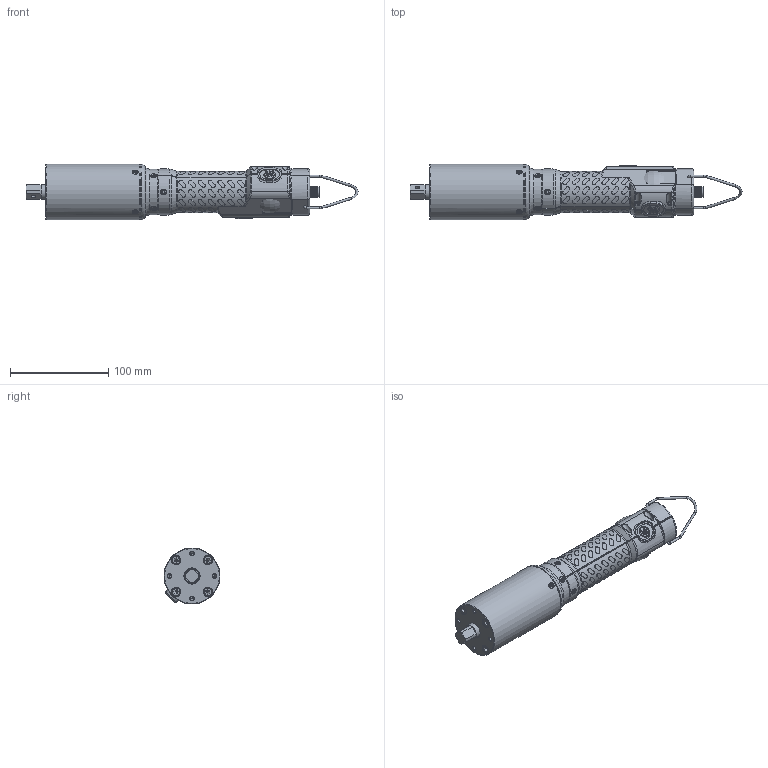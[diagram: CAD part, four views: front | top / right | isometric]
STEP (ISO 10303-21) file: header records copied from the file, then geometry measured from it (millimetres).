
FILE_DESCRIPTION (( 'STEP AP214' ), '1' );
FILE_NAME ('133251 PLUTO50D AVVITATORE 5-50 NM Plastica.STEP', '2026-05-11T06:36:46', ( '' ), ( '' ), 'SwSTEP 2.0', 'SolidWorks 2026', '' );
FILE_SCHEMA (( 'AUTOMOTIVE_DESIGN' ));
Length unit declared in the file: millimetre
Products named in the file (1): 133251  PLUTO50D AVVITATORE 5-50 NM Plastica
Bounding box: 338.3 x 56.78 x 56.78 mm (x, y, z)
Surface area: 63865.9 mm2 (no closed solid volume)
Topology: 0 solids, 39 shells, 902 faces, 2673 edges, 1770 vertices
Faces by surface type: cylinder 316, bspline 311, plane 170, torus 57, cone 43, sphere 5
Full cylindrical faces by diameter (mm): 1 x8, 2.2 x5, 2.5 x2, 3 x2, 4 x1, 4.2 x4, 5.5 x12, 6 x4, 8.3 x1, 8.4 x4, 9 x4, 9.4 x1, 9.5 x1, 15 x1, 16 x2, 47 x1, 57 x2
Entity records: 80427 total; most frequent: CARTESIAN_POINT 50408, ORIENTED_EDGE 4202, DIRECTION 3359, EDGE_CURVE 2499, VERTEX_POINT 1716, AXIS2_PLACEMENT_3D 1375, EDGE_LOOP 1125, B_SPLINE_CURVE_WITH_KNOTS 1053
